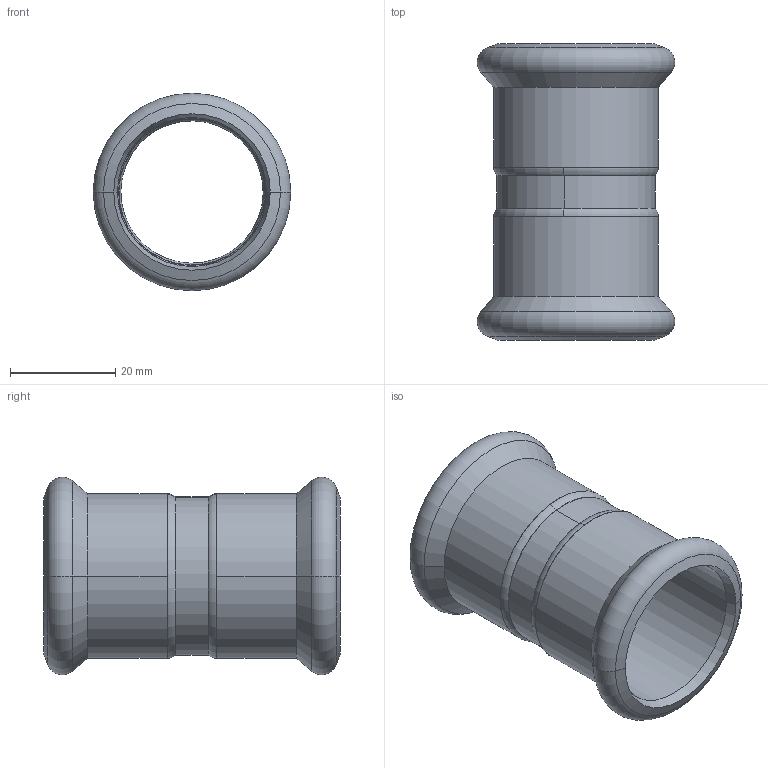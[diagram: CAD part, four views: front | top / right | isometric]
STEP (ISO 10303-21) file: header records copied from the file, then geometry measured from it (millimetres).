
FILE_DESCRIPTION(('Creo Elements/Direct Modeling STEP Export'),'2;1');
FILE_NAME('686139.3.stp','2018-06-29T14:51:31',(''),(''),'PTC Creo Elements/Direct Modeling STEP processor for AP214 (Solid Model)','PTC Creo Elements/Direct Modeling 19.0C 15-Aug-2015 (C) Parametric Technology GmbH','');
FILE_SCHEMA(('AUTOMOTIVE_DESIGN { 1 0 10303 214 1 1 1 1 }'));
Length unit declared in the file: millimetre
Products named in the file (3): Tussenstuk28x28kort.NG; 620037.0; 686139.3.1
Assembly tree (3 placements, depth 2):
  686139.3.1
    620037.0  x2
    Tussenstuk28x28kort.NG
Bounding box: 37.45 x 56.14 x 37.45 mm (x, y, z)
Volume: 10987.3 mm3; surface area: 11947.8 mm2
Topology: 3 solids, 3 shells, 52 faces, 104 edges, 56 vertices
Faces by surface type: cone 20, torus 16, cylinder 12, plane 4
Entity records: 994 total; most frequent: DIRECTION 178, ORIENTED_EDGE 156, CARTESIAN_POINT 142, AXIS2_PLACEMENT_3D 78, EDGE_CURVE 78, VERTEX_POINT 42, EDGE_LOOP 42, FACE_OUTER_BOUND 39
